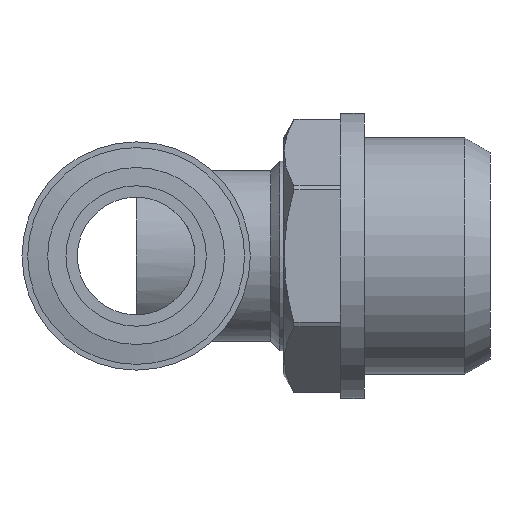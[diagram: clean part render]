
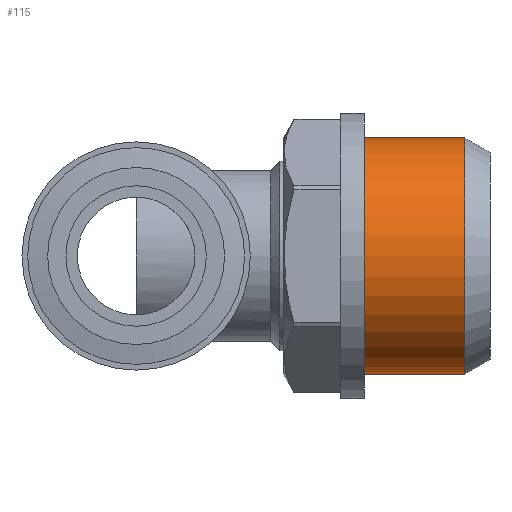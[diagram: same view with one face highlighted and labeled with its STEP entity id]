
A CAD part, front view. The second image highlights one B-rep face of the part: STEP entity #115.
In plain terms, the highlighted cylindrical face has radius 10.35 mm (diameter 20.7 mm), a full revolution.
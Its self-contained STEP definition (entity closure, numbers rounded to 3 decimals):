
#73=CARTESIAN_POINT('',(28.8,10.35,0.));
#74=VERTEX_POINT('',#73);
#75=CARTESIAN_POINT('',(28.8,0.0,0.0));
#76=DIRECTION('',(1.0,0.0,0.0));
#77=DIRECTION('',(0.0,-1.0,0.0));
#78=AXIS2_PLACEMENT_3D('',#75,#76,#77);
#79=CIRCLE('',#78,10.35);
#80=EDGE_CURVE('',#74,#74,#79,.T.);
#96=CARTESIAN_POINT('',(25.5,0.0,0.0));
#97=DIRECTION('',(1.0,0.0,0.0));
#98=DIRECTION('',(0.0,1.0,0.0));
#99=AXIS2_PLACEMENT_3D('',#96,#97,#98);
#100=CYLINDRICAL_SURFACE('',#99,10.35);
#101=CARTESIAN_POINT('',(20.0,10.35,0.0));
#102=VERTEX_POINT('',#101);
#103=CARTESIAN_POINT('',(20.0,0.0,0.0));
#104=DIRECTION('',(1.0,0.0,0.0));
#105=DIRECTION('',(0.0,1.0,0.0));
#106=AXIS2_PLACEMENT_3D('',#103,#104,#105);
#107=CIRCLE('',#106,10.35);
#108=EDGE_CURVE('',#102,#102,#107,.T.);
#109=ORIENTED_EDGE('',*,*,#108,.T.);
#110=EDGE_LOOP('',(#109));
#111=FACE_OUTER_BOUND('',#110,.T.);
#112=ORIENTED_EDGE('',*,*,#80,.F.);
#113=EDGE_LOOP('',(#112));
#114=FACE_BOUND('',#113,.T.);
#115=ADVANCED_FACE('',(#111,#114),#100,.T.);
